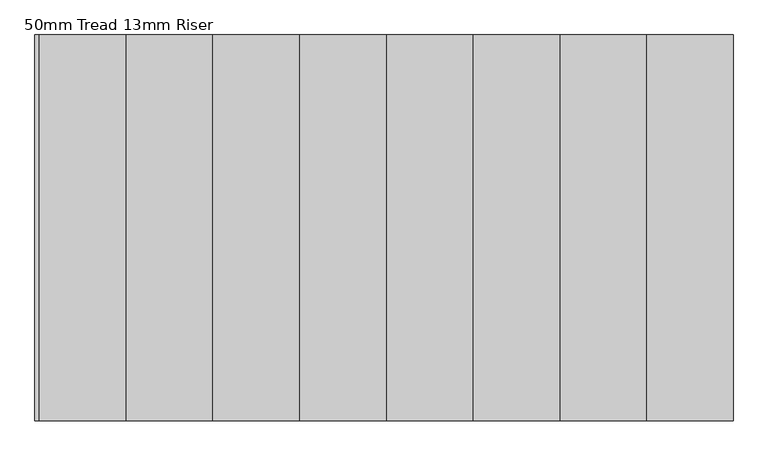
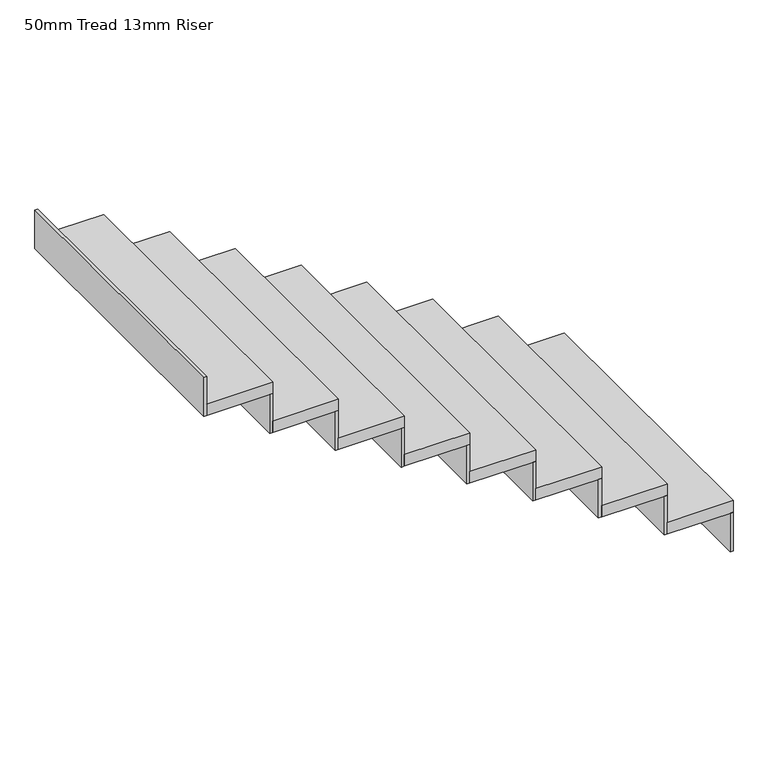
"""IFC4 building model written with IfcOpenShell, lengths in millimetres: stair flight geometry, 50mm Tread 13mm Riser."""

from ifc_helpers import new_model, si_unit, frame, origin, place, context, project, spatial, polyline, outline, extrude, source, transform, mapped, element, save


def stair_flight_50mm_tread_13mm_riser_8a7f8e9f(model_context):
    return source(origin(), model_context, "Body", "SweptSolid", [
        extrude(outline(polyline([(-75821.0913038, 13297.101051), (-75808.5913038, 13297.101051), (-75808.5913038, 12097.101051), (-75821.0913038, 12097.101051), (-75821.0913038, 13297.101051)])), frame((0.0, 0.0, 49464.5207547), z_axis=(0.0, 0.0, 1.0), x_axis=(1.0, 0.0, 0.0)), (0.0, 0.0, 1.0), 168.0650943),
        extrude(outline(polyline([(-76078.5913038, 12097.101051), (-76078.5913038, 13297.101051), (-75808.5913038, 13297.101051), (-75808.5913038, 12097.101051), (-76078.5913038, 12097.101051)])), frame((0.0, 0.0, 49632.585849), z_axis=(0.0, 0.0, 1.0), x_axis=(1.0, 0.0, 0.0)), (0.0, 0.0, 1.0), 50.0),
        extrude(outline(polyline([(-76091.0913038, 13297.101051), (-76078.5913038, 13297.101051), (-76078.5913038, 12097.101051), (-76091.0913038, 12097.101051), (-76091.0913038, 13297.101051)])), frame((0.0, 0.0, 49632.585849), z_axis=(0.0, 0.0, 1.0), x_axis=(1.0, 0.0, 0.0)), (0.0, 0.0, 1.0), 168.0650943),
        extrude(outline(polyline([(-76348.5913038, 12097.101051), (-76348.5913038, 13297.101051), (-76078.5913038, 13297.101051), (-76078.5913038, 12097.101051), (-76348.5913038, 12097.101051)])), frame((0.0, 0.0, 49800.6509433), z_axis=(0.0, 0.0, 1.0), x_axis=(1.0, 0.0, 0.0)), (0.0, 0.0, 1.0), 50.0),
        extrude(outline(polyline([(-76361.0913038, 13297.101051), (-76348.5913038, 13297.101051), (-76348.5913038, 12097.101051), (-76361.0913038, 12097.101051), (-76361.0913038, 13297.101051)])), frame((0.0, 0.0, 49800.6509433), z_axis=(0.0, 0.0, 1.0), x_axis=(1.0, 0.0, 0.0)), (0.0, 0.0, 1.0), 168.0650943),
        extrude(outline(polyline([(-76618.5913038, 12097.101051), (-76618.5913038, 13297.101051), (-76348.5913038, 13297.101051), (-76348.5913038, 12097.101051), (-76618.5913038, 12097.101051)])), frame((0.0, 0.0, 49968.7160377), z_axis=(0.0, 0.0, 1.0), x_axis=(1.0, 0.0, 0.0)), (0.0, 0.0, 1.0), 50.0),
        extrude(outline(polyline([(-76631.0913038, 13297.101051), (-76618.5913038, 13297.101051), (-76618.5913038, 12097.101051), (-76631.0913038, 12097.101051), (-76631.0913038, 13297.101051)])), frame((0.0, 0.0, 49968.7160377), z_axis=(0.0, 0.0, 1.0), x_axis=(1.0, 0.0, 0.0)), (0.0, 0.0, 1.0), 168.0650943),
        extrude(outline(polyline([(-76888.5913038, 12097.101051), (-76888.5913038, 13297.101051), (-76618.5913038, 13297.101051), (-76618.5913038, 12097.101051), (-76888.5913038, 12097.101051)])), frame((0.0, 0.0, 50136.781132), z_axis=(0.0, 0.0, 1.0), x_axis=(1.0, 0.0, 0.0)), (0.0, 0.0, 1.0), 50.0),
        extrude(outline(polyline([(-76901.0913038, 13297.101051), (-76888.5913038, 13297.101051), (-76888.5913038, 12097.101051), (-76901.0913038, 12097.101051), (-76901.0913038, 13297.101051)])), frame((0.0, 0.0, 50136.781132), z_axis=(0.0, 0.0, 1.0), x_axis=(1.0, 0.0, 0.0)), (0.0, 0.0, 1.0), 168.0650943),
        extrude(outline(polyline([(-77158.5913038, 12097.101051), (-77158.5913038, 13297.101051), (-76888.5913038, 13297.101051), (-76888.5913038, 12097.101051), (-77158.5913038, 12097.101051)])), frame((0.0, 0.0, 50304.8462263), z_axis=(0.0, 0.0, 1.0), x_axis=(1.0, 0.0, 0.0)), (0.0, 0.0, 1.0), 50.0),
        extrude(outline(polyline([(-77171.0913038, 13297.101051), (-77158.5913038, 13297.101051), (-77158.5913038, 12097.101051), (-77171.0913038, 12097.101051), (-77171.0913038, 13297.101051)])), frame((0.0, 0.0, 50304.8462263), z_axis=(0.0, 0.0, 1.0), x_axis=(1.0, 0.0, 0.0)), (0.0, 0.0, 1.0), 168.0650943),
        extrude(outline(polyline([(-77428.5913038, 12097.101051), (-77428.5913038, 13297.101051), (-77158.5913038, 13297.101051), (-77158.5913038, 12097.101051), (-77428.5913038, 12097.101051)])), frame((0.0, 0.0, 50472.9113207), z_axis=(0.0, 0.0, 1.0), x_axis=(1.0, 0.0, 0.0)), (0.0, 0.0, 1.0), 50.0),
        extrude(outline(polyline([(-77441.0913038, 13297.101051), (-77428.5913038, 13297.101051), (-77428.5913038, 12097.101051), (-77441.0913038, 12097.101051), (-77441.0913038, 13297.101051)])), frame((0.0, 0.0, 50472.9113207), z_axis=(0.0, 0.0, 1.0), x_axis=(1.0, 0.0, 0.0)), (0.0, 0.0, 1.0), 168.0650943),
        extrude(outline(polyline([(-77698.5913038, 12097.101051), (-77698.5913038, 13297.101051), (-77428.5913038, 13297.101051), (-77428.5913038, 12097.101051), (-77698.5913038, 12097.101051)])), frame((0.0, 0.0, 50640.976415), z_axis=(0.0, 0.0, 1.0), x_axis=(1.0, 0.0, 0.0)), (0.0, 0.0, 1.0), 50.0),
        extrude(outline(polyline([(-77711.0913038, 13297.101051), (-77698.5913038, 13297.101051), (-77698.5913038, 12097.101051), (-77711.0913038, 12097.101051), (-77711.0913038, 13297.101051)])), frame((0.0, 0.0, 50640.976415), z_axis=(0.0, 0.0, 1.0), x_axis=(1.0, 0.0, 0.0)), (0.0, 0.0, 1.0), 168.0650943),
        extrude(outline(polyline([(-77981.0913038, 13297.101051), (-77968.5913038, 13297.101051), (-77968.5913038, 12097.101051), (-77981.0913038, 12097.101051), (-77981.0913038, 13297.101051)])), frame((0.0, 0.0, 50809.0415094), z_axis=(0.0, 0.0, 1.0), x_axis=(1.0, 0.0, 0.0)), (0.0, 0.0, 1.0), 168.0650943),
        extrude(outline(polyline([(-77968.5913038, 12097.101051), (-77968.5913038, 13297.101051), (-77698.5913038, 13297.101051), (-77698.5913038, 12097.101051), (-77968.5913038, 12097.101051)])), frame((0.0, 0.0, 50809.0415094), z_axis=(0.0, 0.0, 1.0), x_axis=(1.0, 0.0, 0.0)), (0.0, 0.0, 1.0), 50.0),
    ])


if __name__ == "__main__":
    model = new_model("IFC4")
    model_context = context("Model", 3, world=origin())
    ifc_project = project(units=[si_unit("LENGTHUNIT", "METRE", prefix="MILLI")], contexts=[model_context])
    site = spatial("IfcSite", under=ifc_project)
    building = spatial("IfcBuilding", under=site)
    placement = place(None, origin())
    stair_flight_50mm_tread_13mm_riser_shape = stair_flight_50mm_tread_13mm_riser_8a7f8e9f(model_context)
    element("IfcStairFlight", 1, ObjectType="50mm Tread 13mm Riser", at=placement, inside=building, context=model_context, shape_type="MappedRepresentation", body=[
        mapped(stair_flight_50mm_tread_13mm_riser_shape, transform((0.0, 0.0, 0.0), x_axis=(1.0, 0.0, 0.0), y_axis=(0.0, 1.0, 0.0), z_axis=(0.0, 0.0, 1.0))),
    ])
    save(model, "model.ifc")
